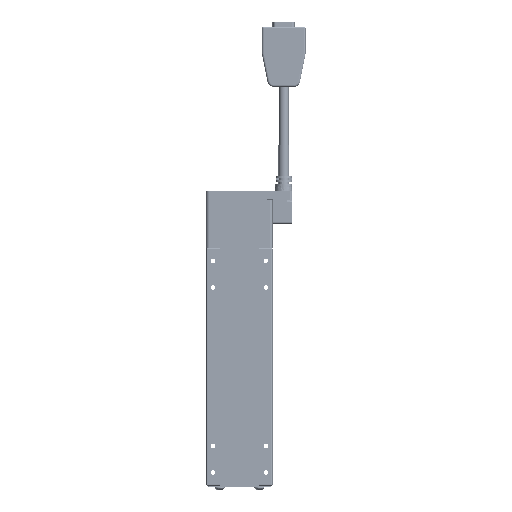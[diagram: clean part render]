
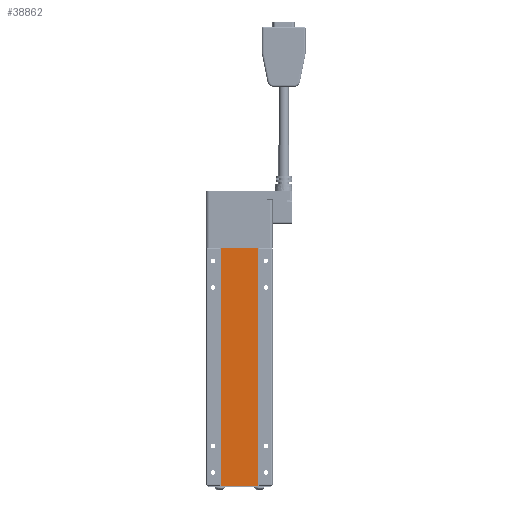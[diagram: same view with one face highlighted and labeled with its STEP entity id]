
A CAD part, front view. The second image highlights one B-rep face of the part: STEP entity #38862.
In plain terms, the highlighted planar face has unit normal (0, -1, 0).
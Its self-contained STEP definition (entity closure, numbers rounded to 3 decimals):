
#2758 = ORIENTED_EDGE ( 'NONE', *, *, #101501, .T. ) ;
#6921 = AXIS2_PLACEMENT_3D ( 'NONE', #73439, #146039, #108585 ) ;
#12813 = CARTESIAN_POINT ( 'NONE',  ( 14.3, 0.3, 0.2 ) ) ;
#13309 = FACE_OUTER_BOUND ( 'NONE', #136570, .T. ) ;
#14446 = VERTEX_POINT ( 'NONE', #33560 ) ;
#24448 = VECTOR ( 'NONE', #107786, 1000. ) ;
#31871 = VECTOR ( 'NONE', #115066, 1000. ) ;
#33041 = LINE ( 'NONE', #80680, #31871 ) ;
#33560 = CARTESIAN_POINT ( 'NONE',  ( -14.3, 0.3, 179.8 ) ) ;
#36682 = LINE ( 'NONE', #120265, #24448 ) ;
#38862 = ADVANCED_FACE ( 'NONE', ( #13309 ), #60958, .F. ) ;
#53607 = CARTESIAN_POINT ( 'NONE',  ( 14.3, 0.3, 0.2 ) ) ;
#58074 = ORIENTED_EDGE ( 'NONE', *, *, #81808, .T. ) ;
#59435 = CARTESIAN_POINT ( 'NONE',  ( -14.3, 0.3, 0.2 ) ) ;
#59840 = CARTESIAN_POINT ( 'NONE',  ( 14.3, 0.3, 179.8 ) ) ;
#60958 = PLANE ( 'NONE',  #6921 ) ;
#61660 = EDGE_CURVE ( 'NONE', #144586, #14446, #33041, .T. ) ;
#73439 = CARTESIAN_POINT ( 'NONE',  ( -14.3, 0.3, 179.8 ) ) ;
#73994 = VERTEX_POINT ( 'NONE', #53607 ) ;
#80680 = CARTESIAN_POINT ( 'NONE',  ( -14.3, 0.3, 179.8 ) ) ;
#81595 = ORIENTED_EDGE ( 'NONE', *, *, #61660, .T. ) ;
#81808 = EDGE_CURVE ( 'NONE', #141379, #73994, #144493, .T. ) ;
#92085 = EDGE_CURVE ( 'NONE', #73994, #144586, #94854, .T. ) ;
#94854 = LINE ( 'NONE', #12813, #95081 ) ;
#95081 = VECTOR ( 'NONE', #130769, 1000. ) ;
#101501 = EDGE_CURVE ( 'NONE', #14446, #141379, #36682, .T. ) ;
#103519 = CARTESIAN_POINT ( 'NONE',  ( -14.3, 0.3, 0.2 ) ) ;
#107786 = DIRECTION ( 'NONE',  ( 0., 0., -1. ) ) ;
#108585 = DIRECTION ( 'NONE',  ( -1., 0., 0. ) ) ;
#110142 = DIRECTION ( 'NONE',  ( 1., 0., 0. ) ) ;
#115066 = DIRECTION ( 'NONE',  ( -1., 0., 0. ) ) ;
#120265 = CARTESIAN_POINT ( 'NONE',  ( -14.3, 0.3, 0.2 ) ) ;
#126376 = ORIENTED_EDGE ( 'NONE', *, *, #92085, .T. ) ;
#130769 = DIRECTION ( 'NONE',  ( 0., 0., 1. ) ) ;
#136570 = EDGE_LOOP ( 'NONE', ( #2758, #58074, #126376, #81595 ) ) ;
#141379 = VERTEX_POINT ( 'NONE', #103519 ) ;
#144250 = VECTOR ( 'NONE', #110142, 1000. ) ;
#144493 = LINE ( 'NONE', #59435, #144250 ) ;
#144586 = VERTEX_POINT ( 'NONE', #59840 ) ;
#146039 = DIRECTION ( 'NONE',  ( 0., 1., 0. ) ) ;
